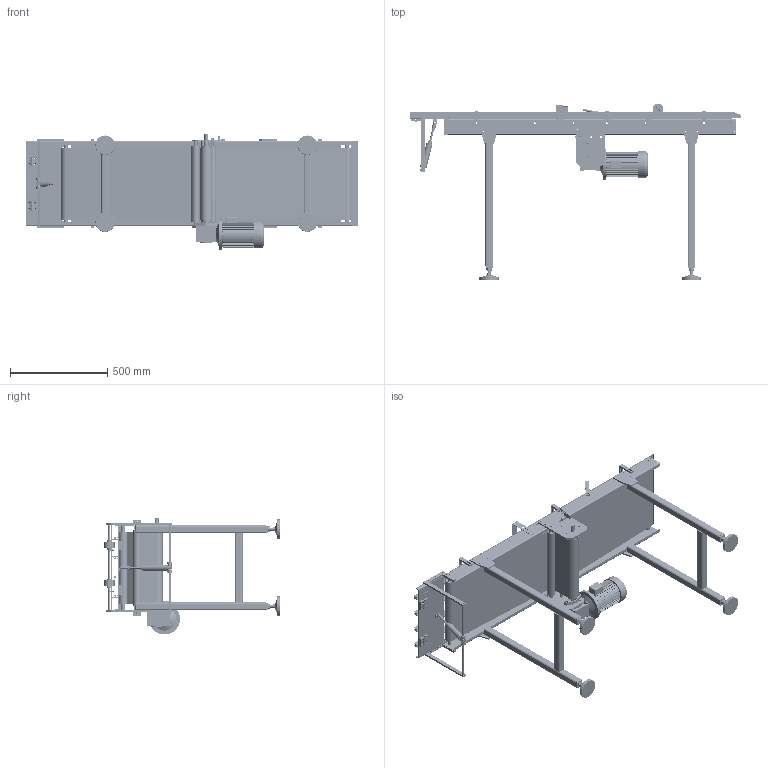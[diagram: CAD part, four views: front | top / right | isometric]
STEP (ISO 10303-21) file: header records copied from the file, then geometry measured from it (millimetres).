
FILE_DESCRIPTION(/* description */ (''),/* implementation_level */ '2;1');
FILE_NAME(/* name */ 'beltconveyor_a123_w370_l1700.stp',/* time_stamp */ '2025-01-12T20:22:07+08:00',/* author */ (''),/* organization */ (''),/* preprocessor_version */ 'ST-DEVELOPER v16.7',/* originating_system */ 'SIEMENS PLM Software NX 12.0',/* authorisation */ '');
FILE_SCHEMA (('AUTOMOTIVE_DESIGN { 1 0 10303 214 3 1 1 1 }'));
Products named in the file (47): HC336-07-31P((占紧套); HC336-07-27P((落料板); HC336-07-26P((落料台板); JE8052四角合页; MAL25x50CA气缸轴; HC336-07-29P((轴杆); HC336-07-28P((L型支板); HC336-07-30P((气缸连铰); MAL25x50CA气缸管; HI_WAD01-D80-M16-L100-002; HI_WAD01-D80-M16-L100-001; HC336-07-25P((过渡板); HC336-07-08P(右传动板); 6004深沟球轴承; HC336-07-02P(机架脚）_默认_按加工_; HC336-07-05P(两端从动轴心）; HC336-07-20P((压料轴杆); 三相异步电机71B5; HC336-07-23P((压料杆); 6900深沟球轴承; HC336-07-06P(左传动板); HC336-07-19P((压料侧板); HC336-07-09P(张紧辊筒); UCFL204带座轴承; RV40蜗轮减速机; HC336-07-21P((压料轮); HC336-07-13P(轴承座板); HC336-07-11P(张紧调节块); HC336-07-15P((被动辊); HC336-07-32P((电眼座); HC336-07-07P(皮带托板); HC336-07-04P(两端从动滚筒）; HC336-07-10P(张紧辊筒轴心); 6904深沟球轴承; HC336-07-14P(主动轴); HC336-07-22P((压料轮定位套); 3310x370x2皮带; HC336-07-16P((被动辊轴心); HC336-07-18P((支架撑板); HC336-07-17P((支架)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
Assembly tree (86 placements, depth 3):
  beltconveyor_a123_w370_l1700
    HC336-07-12P(传动板撑杆)
    HC336-07-24P((限位板)  x4
    6002深沟球轴承  x2
    HC336-07-01P(C型钢）  x2
    HC336-07-17P((支架)  x3
    HC336-07-18P((支架撑板)  x6
    HC336-07-16P((被动辊轴心)
    3310x370x2皮带
    HC336-07-22P((压料轮定位套)  x4
    HC336-07-14P(主动轴)
    6904深沟球轴承  x6
    HC336-07-10P(张紧辊筒轴心)
    HC336-07-04P(两端从动滚筒）  x2
    HC336-07-07P(皮带托板)  x2
    HC336-07-32P((电眼座)  x2
    HC336-07-15P((被动辊)
    HC336-07-11P(张紧调节块)  x2
    HC336-07-13P(轴承座板)
    HC336-07-21P((压料轮)  x2
    RV40蜗轮减速机
    UCFL204带座轴承
    HC336-07-09P(张紧辊筒)
    WAD01-D100-M16-L100重载脚杯  x4
      HI_WAD01-D80-M16-L100-001
      HI_WAD01-D80-M16-L100-002
    HC336-07-19P((压料侧板)  x2
    HC336-07-06P(左传动板)
    6900深沟球轴承  x4
    HC336-07-23P((压料杆)  x2
    三相异步电机71B5
    HC336-07-20P((压料轴杆)
    HC336-07-05P(两端从动轴心）  x2
    HC336-07-02P(机架脚）_默认_按加工_  x2
    HC336-07-00-1(故障落料)
      MAL25x50CA气缸管
      HC336-07-30P((气缸连铰)
      HC336-07-28P((L型支板)  x2
      HC336-07-29P((轴杆)
      MAL25x50CA气缸轴
      JE8052四角合页  x4
      HC336-07-26P((落料台板)
      HC336-07-27P((落料板)
      HC336-07-31P((占紧套)  x2
    6004深沟球轴承
    HC336-07-08P(右传动板)
    HC336-07-25P((过渡板)
Bounding box: 1707 x 906.78 x 601.5 mm (x, y, z)
Volume: 17294301.5 mm3; surface area: 8395579.9 mm2
Topology: 325 solids, 365 shells, 7395 faces, 20321 edges, 13150 vertices
Faces by surface type: plane 2799, extrusion 1968, cylinder 1359, torus 566, sphere 434, cone 235, bspline 34
Entity records: 104582 total; most frequent: CARTESIAN_POINT 33281, ORIENTED_EDGE 14962, DIRECTION 12564, EDGE_CURVE 7481, VERTEX_POINT 4958, AXIS2_PLACEMENT_3D 4415, VECTOR 3734, EDGE_LOOP 3333
